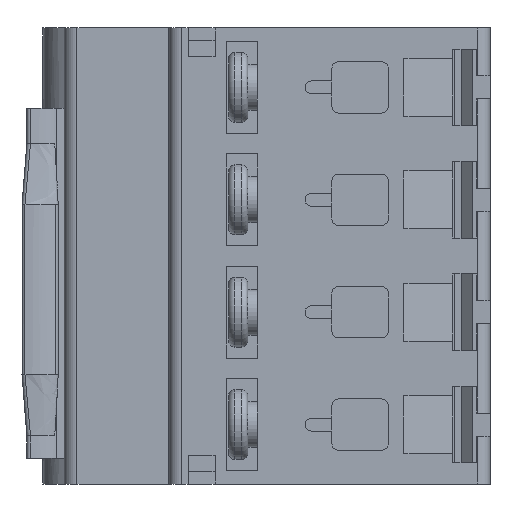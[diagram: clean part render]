
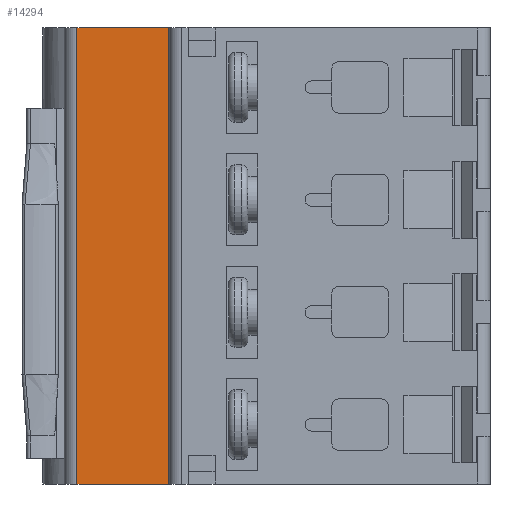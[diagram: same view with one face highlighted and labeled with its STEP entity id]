
A CAD part, front view. The second image highlights one B-rep face of the part: STEP entity #14294.
In plain terms, the highlighted planar face has unit normal (0, -1, 0).
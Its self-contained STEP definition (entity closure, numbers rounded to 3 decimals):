
#383 = VERTEX_POINT ( 'NONE', #1355 ) ;
#631 = CARTESIAN_POINT ( 'NONE',  ( 0., 18., -0.5 ) ) ;
#1355 = CARTESIAN_POINT ( 'NONE',  ( -14.3, 18., 70.5 ) ) ;
#1991 = EDGE_CURVE ( 'NONE', #383, #4137, #5647, .T. ) ;
#2416 = DIRECTION ( 'NONE',  ( 1., 0., 0. ) ) ;
#3034 = VECTOR ( 'NONE', #10673, 1000. ) ;
#3627 = EDGE_CURVE ( 'NONE', #22296, #8457, #19815, .T. ) ;
#3737 = CARTESIAN_POINT ( 'NONE',  ( 0., 18., 70.5 ) ) ;
#4137 = VERTEX_POINT ( 'NONE', #3737 ) ;
#5647 = LINE ( 'NONE', #17967, #3034 ) ;
#5923 = PLANE ( 'NONE',  #14353 ) ;
#7358 = ORIENTED_EDGE ( 'NONE', *, *, #13164, .F. ) ;
#7772 = VECTOR ( 'NONE', #18698, 1000. ) ;
#8195 = ORIENTED_EDGE ( 'NONE', *, *, #1991, .F. ) ;
#8395 = ORIENTED_EDGE ( 'NONE', *, *, #8858, .T. ) ;
#8457 = VERTEX_POINT ( 'NONE', #13893 ) ;
#8777 = DIRECTION ( 'NONE',  ( -1., 0., 0. ) ) ;
#8858 = EDGE_CURVE ( 'NONE', #383, #8457, #17859, .T. ) ;
#8890 = CARTESIAN_POINT ( 'NONE',  ( 0., 18., -0.5 ) ) ;
#9884 = LINE ( 'NONE', #22786, #7772 ) ;
#10673 = DIRECTION ( 'NONE',  ( 1., 0., 0. ) ) ;
#12439 = VECTOR ( 'NONE', #8777, 1000. ) ;
#13056 = CARTESIAN_POINT ( 'NONE',  ( 0., 18., 17.5 ) ) ;
#13164 = EDGE_CURVE ( 'NONE', #4137, #22296, #9884, .T. ) ;
#13893 = CARTESIAN_POINT ( 'NONE',  ( -14.3, 18., -0.5 ) ) ;
#14294 = ADVANCED_FACE ( 'NONE', ( #21976 ), #5923, .T. ) ;
#14353 = AXIS2_PLACEMENT_3D ( 'NONE', #13056, #20230, #2416 ) ;
#17859 = LINE ( 'NONE', #19966, #21539 ) ;
#17967 = CARTESIAN_POINT ( 'NONE',  ( -14.3, 18., 70.5 ) ) ;
#18698 = DIRECTION ( 'NONE',  ( 0., 0., -1. ) ) ;
#19815 = LINE ( 'NONE', #8890, #12439 ) ;
#19966 = CARTESIAN_POINT ( 'NONE',  ( -14.3, 18., 17.5 ) ) ;
#20230 = DIRECTION ( 'NONE',  ( 0., -1., 0. ) ) ;
#20423 = EDGE_LOOP ( 'NONE', ( #8395, #20782, #7358, #8195 ) ) ;
#20782 = ORIENTED_EDGE ( 'NONE', *, *, #3627, .F. ) ;
#21539 = VECTOR ( 'NONE', #21719, 1000. ) ;
#21719 = DIRECTION ( 'NONE',  ( 0., 0., -1. ) ) ;
#21976 = FACE_OUTER_BOUND ( 'NONE', #20423, .T. ) ;
#22296 = VERTEX_POINT ( 'NONE', #631 ) ;
#22786 = CARTESIAN_POINT ( 'NONE',  ( 0., 18., 17.5 ) ) ;
